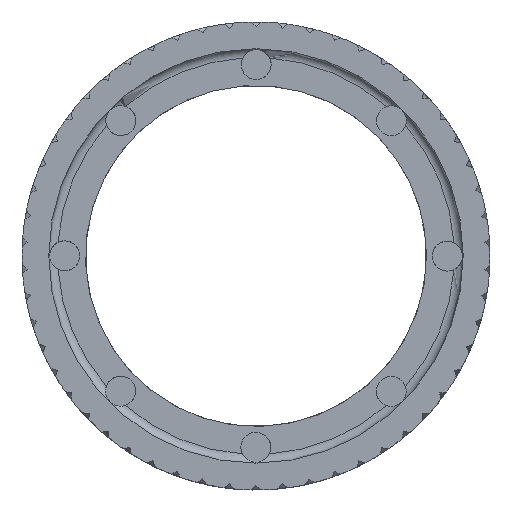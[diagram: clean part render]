
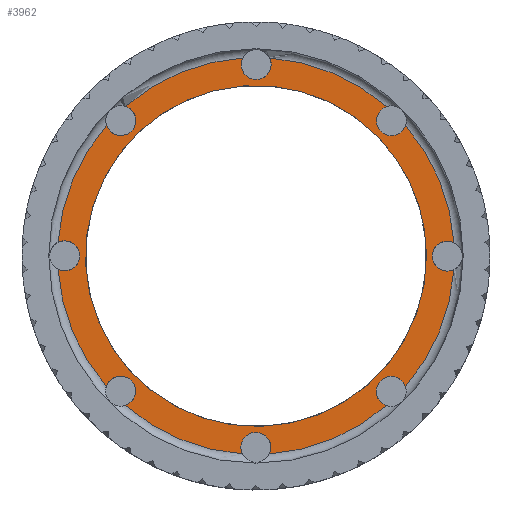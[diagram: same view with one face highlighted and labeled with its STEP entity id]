
A CAD part, top view. The second image highlights one B-rep face of the part: STEP entity #3962.
In plain terms, the highlighted planar face has unit normal (0, 0, 1).
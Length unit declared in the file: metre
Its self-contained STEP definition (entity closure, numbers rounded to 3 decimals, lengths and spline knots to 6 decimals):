
#751=ORIENTED_EDGE('',*,*,#2101,.T.);
#752=ORIENTED_EDGE('',*,*,#2102,.T.);
#753=ORIENTED_EDGE('',*,*,#2103,.T.);
#754=ORIENTED_EDGE('',*,*,#2104,.T.);
#755=ORIENTED_EDGE('',*,*,#2105,.T.);
#756=ORIENTED_EDGE('',*,*,#2106,.T.);
#757=ORIENTED_EDGE('',*,*,#2107,.T.);
#758=ORIENTED_EDGE('',*,*,#2108,.T.);
#759=ORIENTED_EDGE('',*,*,#2109,.T.);
#760=ORIENTED_EDGE('',*,*,#2110,.T.);
#761=ORIENTED_EDGE('',*,*,#2111,.T.);
#762=ORIENTED_EDGE('',*,*,#2112,.T.);
#763=ORIENTED_EDGE('',*,*,#2113,.T.);
#764=ORIENTED_EDGE('',*,*,#2114,.T.);
#765=ORIENTED_EDGE('',*,*,#2115,.T.);
#766=ORIENTED_EDGE('',*,*,#2116,.T.);
#767=ORIENTED_EDGE('',*,*,#2117,.T.);
#2101=EDGE_CURVE('',#2776,#2777,#3231,.F.);
#2102=EDGE_CURVE('',#2777,#2778,#3232,.T.);
#2103=EDGE_CURVE('',#2778,#2779,#3233,.F.);
#2104=EDGE_CURVE('',#2779,#2780,#3234,.T.);
#2105=EDGE_CURVE('',#2780,#2781,#3235,.F.);
#2106=EDGE_CURVE('',#2781,#2782,#3236,.T.);
#2107=EDGE_CURVE('',#2782,#2783,#3237,.F.);
#2108=EDGE_CURVE('',#2783,#2784,#3238,.T.);
#2109=EDGE_CURVE('',#2784,#2785,#3239,.F.);
#2110=EDGE_CURVE('',#2785,#2786,#3240,.T.);
#2111=EDGE_CURVE('',#2786,#2787,#3241,.F.);
#2112=EDGE_CURVE('',#2787,#2788,#3242,.T.);
#2113=EDGE_CURVE('',#2788,#2789,#3243,.F.);
#2114=EDGE_CURVE('',#2789,#2790,#3244,.T.);
#2115=EDGE_CURVE('',#2790,#2791,#3245,.F.);
#2116=EDGE_CURVE('',#2791,#2776,#3246,.T.);
#2117=EDGE_CURVE('',#2792,#2792,#3247,.T.);
#2776=VERTEX_POINT('',#4968);
#2777=VERTEX_POINT('',#4969);
#2778=VERTEX_POINT('',#4971);
#2779=VERTEX_POINT('',#4973);
#2780=VERTEX_POINT('',#4975);
#2781=VERTEX_POINT('',#4977);
#2782=VERTEX_POINT('',#4979);
#2783=VERTEX_POINT('',#4981);
#2784=VERTEX_POINT('',#4983);
#2785=VERTEX_POINT('',#4985);
#2786=VERTEX_POINT('',#4987);
#2787=VERTEX_POINT('',#4989);
#2788=VERTEX_POINT('',#4991);
#2789=VERTEX_POINT('',#4993);
#2790=VERTEX_POINT('',#4995);
#2791=VERTEX_POINT('',#4997);
#2792=VERTEX_POINT('',#5000);
#3231=CIRCLE('',#4214,0.03375);
#3232=CIRCLE('',#4215,0.00255);
#3233=CIRCLE('',#4216,0.03375);
#3234=CIRCLE('',#4217,0.00255);
#3235=CIRCLE('',#4218,0.03375);
#3236=CIRCLE('',#4219,0.00255);
#3237=CIRCLE('',#4220,0.03375);
#3238=CIRCLE('',#4221,0.00255);
#3239=CIRCLE('',#4222,0.03375);
#3240=CIRCLE('',#4223,0.00255);
#3241=CIRCLE('',#4224,0.03375);
#3242=CIRCLE('',#4225,0.00255);
#3243=CIRCLE('',#4226,0.03375);
#3244=CIRCLE('',#4227,0.00255);
#3245=CIRCLE('',#4228,0.03375);
#3246=CIRCLE('',#4229,0.00255);
#3247=CIRCLE('',#4230,0.029);
#3372=EDGE_LOOP('',(#751,#752,#753,#754,#755,#756,#757,#758,#759,#760,#761,
#762,#763,#764,#765,#766));
#3373=EDGE_LOOP('',(#767));
#3628=FACE_BOUND('',#3372,.T.);
#3629=FACE_BOUND('',#3373,.T.);
#3884=PLANE('',#4213);
#3962=ADVANCED_FACE('',(#3628,#3629),#3884,.F.);
#4213=AXIS2_PLACEMENT_3D('',#4966,#4450,#4451);
#4214=AXIS2_PLACEMENT_3D('',#4967,#4452,#4453);
#4215=AXIS2_PLACEMENT_3D('',#4970,#4454,#4455);
#4216=AXIS2_PLACEMENT_3D('',#4972,#4456,#4457);
#4217=AXIS2_PLACEMENT_3D('',#4974,#4458,#4459);
#4218=AXIS2_PLACEMENT_3D('',#4976,#4460,#4461);
#4219=AXIS2_PLACEMENT_3D('',#4978,#4462,#4463);
#4220=AXIS2_PLACEMENT_3D('',#4980,#4464,#4465);
#4221=AXIS2_PLACEMENT_3D('',#4982,#4466,#4467);
#4222=AXIS2_PLACEMENT_3D('',#4984,#4468,#4469);
#4223=AXIS2_PLACEMENT_3D('',#4986,#4470,#4471);
#4224=AXIS2_PLACEMENT_3D('',#4988,#4472,#4473);
#4225=AXIS2_PLACEMENT_3D('',#4990,#4474,#4475);
#4226=AXIS2_PLACEMENT_3D('',#4992,#4476,#4477);
#4227=AXIS2_PLACEMENT_3D('',#4994,#4478,#4479);
#4228=AXIS2_PLACEMENT_3D('',#4996,#4480,#4481);
#4229=AXIS2_PLACEMENT_3D('',#4998,#4482,#4483);
#4230=AXIS2_PLACEMENT_3D('',#4999,#4484,#4485);
#4450=DIRECTION('',(0.,0.,-1.));
#4451=DIRECTION('',(0.819,0.574,0.));
#4452=DIRECTION('',(0.,0.,-1.));
#4453=DIRECTION('',(1.,0.,0.));
#4454=DIRECTION('',(0.,0.,-1.));
#4455=DIRECTION('',(1.,0.,0.));
#4456=DIRECTION('',(0.,0.,-1.));
#4457=DIRECTION('',(1.,0.,0.));
#4458=DIRECTION('',(0.,0.,-1.));
#4459=DIRECTION('',(1.,0.,0.));
#4460=DIRECTION('',(0.,0.,-1.));
#4461=DIRECTION('',(1.,0.,0.));
#4462=DIRECTION('',(0.,0.,-1.));
#4463=DIRECTION('',(1.,0.,0.));
#4464=DIRECTION('',(0.,0.,-1.));
#4465=DIRECTION('',(1.,0.,0.));
#4466=DIRECTION('',(0.,0.,-1.));
#4467=DIRECTION('',(1.,0.,0.));
#4468=DIRECTION('',(0.,0.,-1.));
#4469=DIRECTION('',(1.,0.,0.));
#4470=DIRECTION('',(0.,0.,-1.));
#4471=DIRECTION('',(1.,0.,0.));
#4472=DIRECTION('',(0.,0.,-1.));
#4473=DIRECTION('',(1.,0.,0.));
#4474=DIRECTION('',(0.,0.,-1.));
#4475=DIRECTION('',(1.,0.,0.));
#4476=DIRECTION('',(0.,0.,-1.));
#4477=DIRECTION('',(1.,0.,0.));
#4478=DIRECTION('',(0.,0.,-1.));
#4479=DIRECTION('',(1.,0.,0.));
#4480=DIRECTION('',(0.,0.,-1.));
#4481=DIRECTION('',(1.,0.,0.));
#4482=DIRECTION('',(0.,0.,-1.));
#4483=DIRECTION('',(1.,0.,0.));
#4484=DIRECTION('',(0.,0.,-1.));
#4485=DIRECTION('',(1.,0.,0.));
#4966=CARTESIAN_POINT('',(0.,0.,0.0728));
#4967=CARTESIAN_POINT('',(0.,0.,0.0728));
#4968=CARTESIAN_POINT('',(-0.025412,0.02221,0.0728));
#4969=CARTESIAN_POINT('',(-0.033671,0.002315,0.0728));
#4970=CARTESIAN_POINT('',(-0.03255,0.000024,0.0728));
#4971=CARTESIAN_POINT('',(-0.033674,-0.002265,0.0728));
#4972=CARTESIAN_POINT('',(0.,0.,0.0728));
#4973=CARTESIAN_POINT('',(-0.025446,-0.022172,0.0728));
#4974=CARTESIAN_POINT('',(-0.023034,-0.022999,0.0728));
#4975=CARTESIAN_POINT('',(-0.02221,-0.025412,0.0728));
#4976=CARTESIAN_POINT('',(0.,0.,0.0728));
#4977=CARTESIAN_POINT('',(-0.002315,-0.033671,0.0728));
#4978=CARTESIAN_POINT('',(-0.000024,-0.03255,0.0728));
#4979=CARTESIAN_POINT('',(0.002265,-0.033674,0.0728));
#4980=CARTESIAN_POINT('',(0.,0.,0.0728));
#4981=CARTESIAN_POINT('',(0.022172,-0.025446,0.0728));
#4982=CARTESIAN_POINT('',(0.022999,-0.023034,0.0728));
#4983=CARTESIAN_POINT('',(0.025412,-0.02221,0.0728));
#4984=CARTESIAN_POINT('',(0.,0.,0.0728));
#4985=CARTESIAN_POINT('',(0.033671,-0.002315,0.0728));
#4986=CARTESIAN_POINT('',(0.03255,-0.000024,0.0728));
#4987=CARTESIAN_POINT('',(0.033674,0.002265,0.0728));
#4988=CARTESIAN_POINT('',(0.,0.,0.0728));
#4989=CARTESIAN_POINT('',(0.025446,0.022172,0.0728));
#4990=CARTESIAN_POINT('',(0.023034,0.022999,0.0728));
#4991=CARTESIAN_POINT('',(0.02221,0.025412,0.0728));
#4992=CARTESIAN_POINT('',(0.,0.,0.0728));
#4993=CARTESIAN_POINT('',(0.002315,0.033671,0.0728));
#4994=CARTESIAN_POINT('',(0.000024,0.03255,0.0728));
#4995=CARTESIAN_POINT('',(-0.002265,0.033674,0.0728));
#4996=CARTESIAN_POINT('',(0.,0.,0.0728));
#4997=CARTESIAN_POINT('',(-0.022172,0.025446,0.0728));
#4998=CARTESIAN_POINT('',(-0.022999,0.023034,0.0728));
#4999=CARTESIAN_POINT('',(0.,0.,0.0728));
#5000=CARTESIAN_POINT('',(0.029,0.,0.0728));
